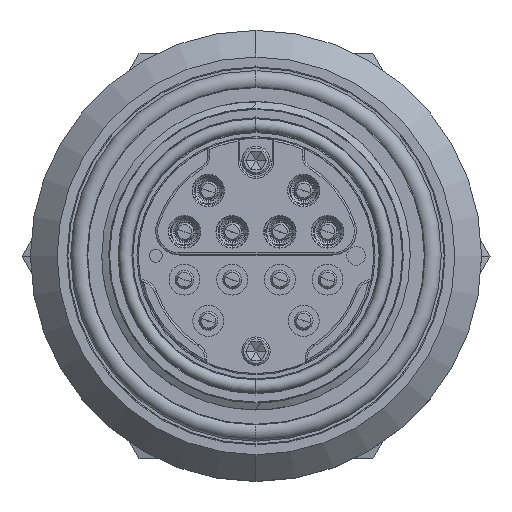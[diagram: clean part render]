
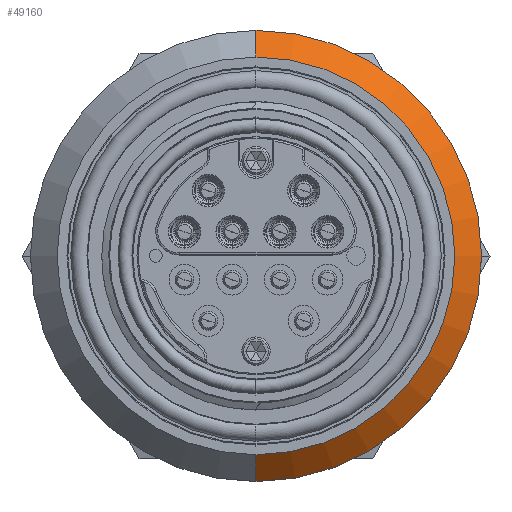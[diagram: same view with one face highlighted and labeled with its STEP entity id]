
A CAD part, top view. The second image highlights one B-rep face of the part: STEP entity #49160.
In plain terms, the highlighted conical face has half-angle 45 degrees and reference radius 30.035 mm.
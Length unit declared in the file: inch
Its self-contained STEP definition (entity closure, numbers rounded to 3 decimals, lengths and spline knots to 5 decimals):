
#8994 = VECTOR ( 'NONE', #37716, 39.37008 ) ;
#12489 = DIRECTION ( 'NONE',  ( 0., 1., 0. ) ) ;
#17277 = CARTESIAN_POINT ( 'NONE',  ( 0., 1.1825, -0.69822 ) ) ;
#24070 = DIRECTION ( 'NONE',  ( 0., 1., 0. ) ) ;
#28377 = LINE ( 'NONE', #45289, #8994 ) ;
#30364 = ORIENTED_EDGE ( 'NONE', *, *, #34578, .T. ) ;
#34578 = EDGE_CURVE ( 'NONE', #103705, #101591, #42615, .T. ) ;
#37716 = DIRECTION ( 'NONE',  ( 0., -0.707, -0.707 ) ) ;
#42615 = CIRCLE ( 'NONE', #110854, 1.0425 ) ;
#42738 = CARTESIAN_POINT ( 'NONE',  ( 0., 0., -0.55822 ) ) ;
#42946 = CONICAL_SURFACE ( 'NONE', #60016, 1.1825, 0.785 ) ;
#43149 = CIRCLE ( 'NONE', #117777, 1.1825 ) ;
#45154 = CARTESIAN_POINT ( 'NONE',  ( 0., -1.1825, -0.69822 ) ) ;
#45289 = CARTESIAN_POINT ( 'NONE',  ( 0., -1.1825, -0.69822 ) ) ;
#49160 = ADVANCED_FACE ( 'NONE', ( #72586 ), #42946, .T. ) ;
#53455 = ORIENTED_EDGE ( 'NONE', *, *, #127049, .F. ) ;
#60016 = AXIS2_PLACEMENT_3D ( 'NONE', #124641, #63900, #12489 ) ;
#60396 = ORIENTED_EDGE ( 'NONE', *, *, #75725, .T. ) ;
#61555 = EDGE_LOOP ( 'NONE', ( #30364, #60396, #66493, #53455 ) ) ;
#63900 = DIRECTION ( 'NONE',  ( 0., 0., -1. ) ) ;
#66493 = ORIENTED_EDGE ( 'NONE', *, *, #109763, .F. ) ;
#72586 = FACE_OUTER_BOUND ( 'NONE', #61555, .T. ) ;
#75725 = EDGE_CURVE ( 'NONE', #101591, #94711, #28377, .T. ) ;
#76515 = DIRECTION ( 'NONE',  ( 0., 0., -1. ) ) ;
#93887 = CARTESIAN_POINT ( 'NONE',  ( 0., 1.0425, -0.55822 ) ) ;
#94711 = VERTEX_POINT ( 'NONE', #45154 ) ;
#98434 = VECTOR ( 'NONE', #129418, 39.37008 ) ;
#101591 = VERTEX_POINT ( 'NONE', #126420 ) ;
#103705 = VERTEX_POINT ( 'NONE', #93887 ) ;
#105902 = DIRECTION ( 'NONE',  ( 0., 1., 0. ) ) ;
#107217 = CARTESIAN_POINT ( 'NONE',  ( 0., 0., -0.69822 ) ) ;
#109418 = LINE ( 'NONE', #17277, #98434 ) ;
#109763 = EDGE_CURVE ( 'NONE', #127410, #94711, #43149, .T. ) ;
#110854 = AXIS2_PLACEMENT_3D ( 'NONE', #42738, #113533, #24070 ) ;
#113533 = DIRECTION ( 'NONE',  ( 0., 0., -1. ) ) ;
#117777 = AXIS2_PLACEMENT_3D ( 'NONE', #107217, #76515, #105902 ) ;
#120412 = CARTESIAN_POINT ( 'NONE',  ( 0., 1.1825, -0.69822 ) ) ;
#124641 = CARTESIAN_POINT ( 'NONE',  ( 0., 0., -0.69822 ) ) ;
#126420 = CARTESIAN_POINT ( 'NONE',  ( 0., -1.0425, -0.55822 ) ) ;
#127049 = EDGE_CURVE ( 'NONE', #103705, #127410, #109418, .T. ) ;
#127410 = VERTEX_POINT ( 'NONE', #120412 ) ;
#129418 = DIRECTION ( 'NONE',  ( 0., 0.707, -0.707 ) ) ;
